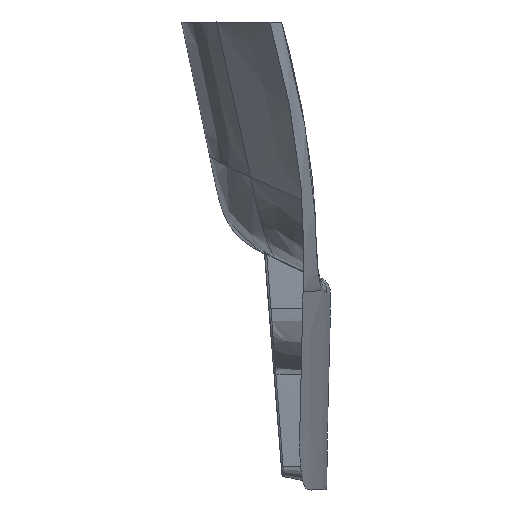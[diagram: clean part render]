
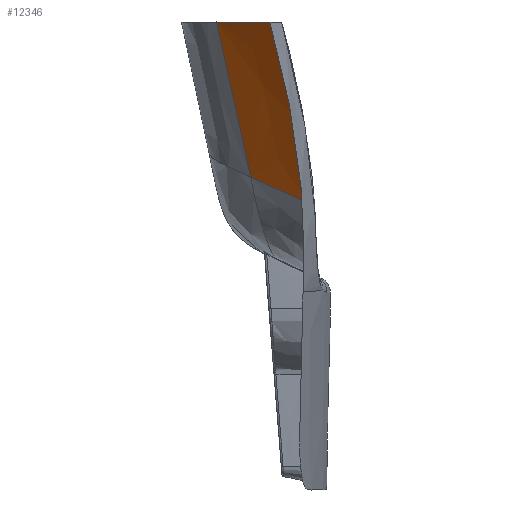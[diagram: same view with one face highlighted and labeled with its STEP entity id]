
A CAD part, front view. The second image highlights one B-rep face of the part: STEP entity #12346.
In plain terms, the highlighted free-form (B-spline) face has degree [5, 2] with [6, 3] control points.
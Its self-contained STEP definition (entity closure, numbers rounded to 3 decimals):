
#12237=CARTESIAN_POINT('Vertex',(3385.464,-45.802,722.016)) ;
#12277=CARTESIAN_POINT('Control Point',(3368.161,-26.006,715.093)) ;
#12278=CARTESIAN_POINT('Control Point',(3380.256,-37.314,709.913)) ;
#12279=CARTESIAN_POINT('Control Point',(3388.97,-49.316,704.717)) ;
#12280=CARTESIAN_POINT('Control Point',(3364.311,-26.006,733.461)) ;
#12281=CARTESIAN_POINT('Control Point',(3377.072,-37.206,733.299)) ;
#12282=CARTESIAN_POINT('Control Point',(3390.913,-49.379,732.431)) ;
#12283=CARTESIAN_POINT('Control Point',(3360.462,-26.006,751.829)) ;
#12284=CARTESIAN_POINT('Control Point',(3370.869,-37.304,756.031)) ;
#12285=CARTESIAN_POINT('Control Point',(3380.491,-48.794,759.764)) ;
#12286=CARTESIAN_POINT('Control Point',(3356.613,-26.006,770.197)) ;
#12287=CARTESIAN_POINT('Control Point',(3364.699,-37.481,779.139)) ;
#12288=CARTESIAN_POINT('Control Point',(3373.371,-50.021,786.117)) ;
#12289=CARTESIAN_POINT('Control Point',(3352.763,-26.006,788.566)) ;
#12290=CARTESIAN_POINT('Control Point',(3357.235,-37.2,800.847)) ;
#12291=CARTESIAN_POINT('Control Point',(3361.245,-48.985,810.875)) ;
#12292=CARTESIAN_POINT('Control Point',(3348.914,-26.006,806.934)) ;
#12293=CARTESIAN_POINT('Control Point',(3348.718,-37.583,823.244)) ;
#12294=CARTESIAN_POINT('Control Point',(3346.985,-49.887,835.826)) ;
#12296=CARTESIAN_POINT('Control Point',(3378.336,-47.308,760.)) ;
#12297=CARTESIAN_POINT('Control Point',(3375.249,-43.911,760.)) ;
#12298=CARTESIAN_POINT('Control Point',(3372.162,-40.553,760.)) ;
#12299=CARTESIAN_POINT('Control Point',(3369.085,-37.233,760.)) ;
#12300=CARTESIAN_POINT('Control Point',(3366.059,-33.963,760.)) ;
#12301=CARTESIAN_POINT('Vertex',(3378.336,-47.308,760.)) ;
#12303=CARTESIAN_POINT('Vertex',(3366.06,-33.963,760.)) ;
#12307=CARTESIAN_POINT('Control Point',(3373.168,-33.592,727.658)) ;
#12308=CARTESIAN_POINT('Control Point',(3372.654,-33.575,730.219)) ;
#12309=CARTESIAN_POINT('Control Point',(3372.14,-33.568,732.71)) ;
#12310=CARTESIAN_POINT('Control Point',(3371.611,-33.572,735.236)) ;
#12311=CARTESIAN_POINT('Control Point',(3370.522,-33.601,740.345)) ;
#12312=CARTESIAN_POINT('Control Point',(3369.388,-33.664,745.493)) ;
#12313=CARTESIAN_POINT('Control Point',(3368.814,-33.703,748.059)) ;
#12314=CARTESIAN_POINT('Control Point',(3367.937,-33.771,751.929)) ;
#12315=CARTESIAN_POINT('Control Point',(3367.033,-33.858,755.841)) ;
#12316=CARTESIAN_POINT('Control Point',(3366.713,-33.89,757.214)) ;
#12317=CARTESIAN_POINT('Control Point',(3366.389,-33.925,758.601)) ;
#12318=CARTESIAN_POINT('Control Point',(3366.059,-33.963,760.)) ;
#12319=CARTESIAN_POINT('Vertex',(3373.168,-33.592,727.658)) ;
#12323=CARTESIAN_POINT('Control Point',(3385.464,-45.802,722.016)) ;
#12324=CARTESIAN_POINT('Control Point',(3382.543,-42.696,723.423)) ;
#12325=CARTESIAN_POINT('Control Point',(3379.507,-39.618,724.833)) ;
#12326=CARTESIAN_POINT('Control Point',(3376.37,-36.581,726.252)) ;
#12327=CARTESIAN_POINT('Control Point',(3373.168,-33.592,727.658)) ;
#12330=CARTESIAN_POINT('Control Point',(3378.336,-47.308,760.)) ;
#12331=CARTESIAN_POINT('Control Point',(3379.247,-47.209,756.715)) ;
#12332=CARTESIAN_POINT('Control Point',(3380.105,-47.103,753.429)) ;
#12333=CARTESIAN_POINT('Control Point',(3380.906,-46.99,750.143)) ;
#12334=CARTESIAN_POINT('Control Point',(3382.646,-46.709,742.428)) ;
#12335=CARTESIAN_POINT('Control Point',(3383.992,-46.398,734.894)) ;
#12336=CARTESIAN_POINT('Control Point',(3384.634,-46.21,730.591)) ;
#12337=CARTESIAN_POINT('Control Point',(3385.132,-46.012,726.305)) ;
#12338=CARTESIAN_POINT('Control Point',(3385.464,-45.802,722.016)) ;
#12341=ORIENTED_EDGE('',*,*,#12305,.T.) ;
#12342=ORIENTED_EDGE('',*,*,#12321,.T.) ;
#12343=ORIENTED_EDGE('',*,*,#12328,.T.) ;
#12344=ORIENTED_EDGE('',*,*,#12339,.F.) ;
#12346=ADVANCED_FACE('Split.3',(#12345),#12276,.F.) ;
#12295=B_SPLINE_CURVE_WITH_KNOTS('',4,(#12296,#12297,#12298,#12299,#12300),.UNSPECIFIED.,.F.,.U.,(5,5),(1.254,28.202),.UNSPECIFIED.) ;
#12306=B_SPLINE_CURVE_WITH_KNOTS('',5,(#12307,#12308,#12309,#12310,#12311,#12312,#12313,#12314,#12315,#12316,#12317,#12318),.UNSPECIFIED.,.F.,.U.,(6,3,3,6),(0.,13.842,27.685,35.058),.UNSPECIFIED.) ;
#12322=B_SPLINE_CURVE_WITH_KNOTS('',4,(#12323,#12324,#12325,#12326,#12327),.UNSPECIFIED.,.F.,.U.,(5,5),(0.4,18.455),.UNSPECIFIED.) ;
#12329=B_SPLINE_CURVE_WITH_KNOTS('',5,(#12330,#12331,#12332,#12333,#12334,#12335,#12336,#12337,#12338),.UNSPECIFIED.,.F.,.U.,(6,3,6),(42.596,57.391,77.529),.UNSPECIFIED.) ;
#12276=B_SPLINE_SURFACE_WITH_KNOTS('',5,2,((#12277,#12278,#12279),(#12280,#12281,#12282),(#12283,#12284,#12285),(#12286,#12287,#12288),(#12289,#12290,#12291),(#12292,#12293,#12294)),.UNSPECIFIED.,.F.,.F.,.U.,(6,6),(3,3),(0.,117.516),(0.,34.026),.UNSPECIFIED.) ;
#12305=EDGE_CURVE('',#12302,#12304,#12295,.T.) ;
#12321=EDGE_CURVE('',#12304,#12320,#12306,.F.) ;
#12328=EDGE_CURVE('',#12320,#12238,#12322,.F.) ;
#12339=EDGE_CURVE('',#12302,#12238,#12329,.T.) ;
#12340=EDGE_LOOP('',(#12341,#12342,#12343,#12344)) ;
#12345=FACE_OUTER_BOUND('',#12340,.T.) ;
#12238=VERTEX_POINT('',#12237) ;
#12302=VERTEX_POINT('',#12301) ;
#12304=VERTEX_POINT('',#12303) ;
#12320=VERTEX_POINT('',#12319) ;
